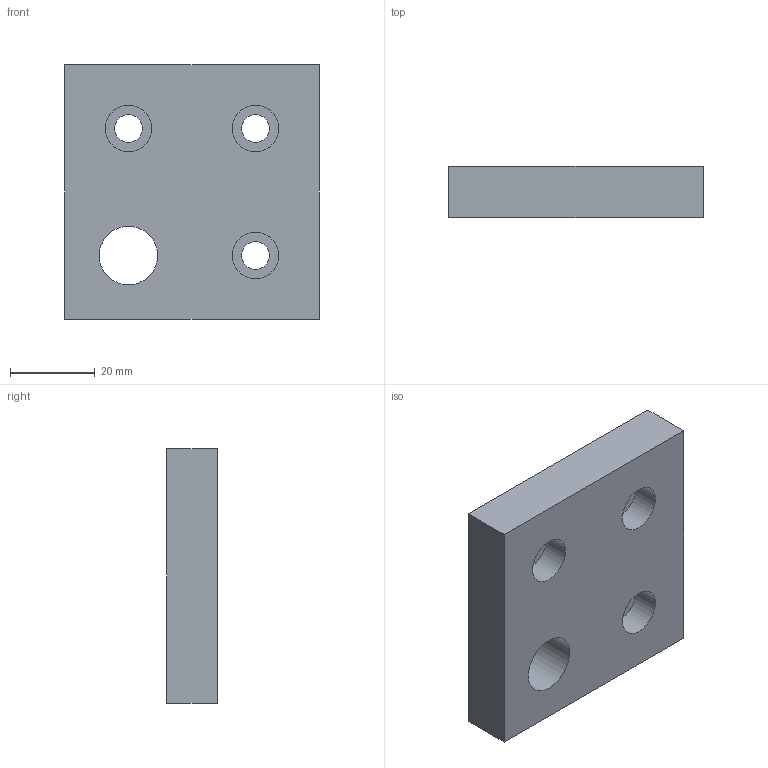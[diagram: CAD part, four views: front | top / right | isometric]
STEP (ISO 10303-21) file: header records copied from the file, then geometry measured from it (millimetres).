
FILE_DESCRIPTION(/* description */ ('Unknown'),/* implementation_level */ '2;1');
FILE_NAME(/* name */ 'FT6060M16',/* time_stamp */ '2026-09-18T10:09:54+08:00',/* author */ ('Unknown'),/* organization */ ('Unknown'),/* preprocessor_version */ 'ST-DEVELOPER v16.7',/* originating_system */ 'DEX',/* authorisation */ $);
FILE_SCHEMA (('AUTOMOTIVE_DESIGN {1 0 10303 214 3 1 1}'));
Length unit declared in the file: millimetre
Products named in the file (1): FT6060M16
Bounding box: 60 x 12 x 60 mm (x, y, z)
Volume: 38995.4 mm3; surface area: 11112.6 mm2
Topology: 1 solids, 1 shells, 16 faces, 37 edges, 26 vertices
Faces by surface type: plane 9, cylinder 7
Full cylindrical faces by diameter (mm): 6.5 x3, 11 x3, 13.835 x1
Entity records: 548 total; most frequent: DIRECTION 74, CARTESIAN_POINT 65, ORIENTED_EDGE 52, EDGE_LOOP 34, FACE_BOUND 34, AXIS2_PLACEMENT_3D 31, EDGE_CURVE 26, VERTEX_POINT 22
